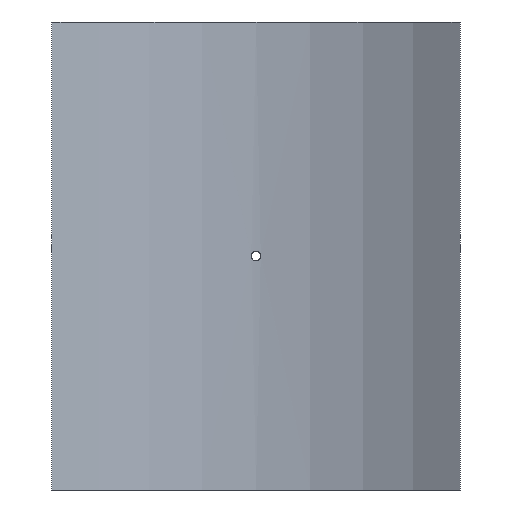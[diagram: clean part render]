
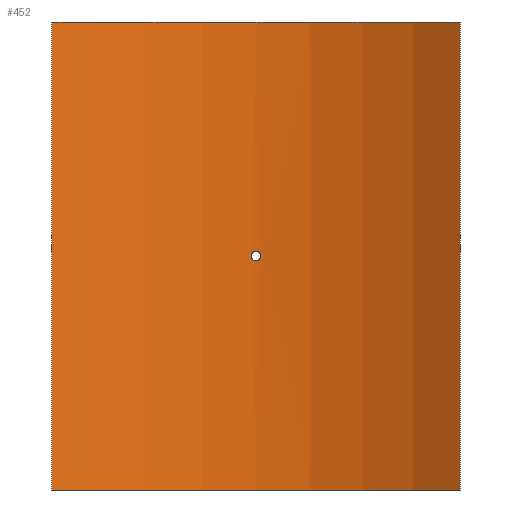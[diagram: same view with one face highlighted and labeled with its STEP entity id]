
A CAD part, front view. The second image highlights one B-rep face of the part: STEP entity #452.
In plain terms, the highlighted cylindrical face has radius 355 mm (diameter 710 mm), a partial arc.
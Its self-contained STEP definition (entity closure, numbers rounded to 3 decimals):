
#19=B_SPLINE_CURVE_WITH_KNOTS('',3,(#788,#789,#790,#791,#792,#793,#794,
#795,#796,#797,#798,#799,#800,#801,#802,#803,#804,#805,#806,#807,#808,#809,
#810,#811,#812,#813,#814,#815,#816,#817,#818,#819,#820,#821),
 .UNSPECIFIED.,.T.,.F.,(4,2,2,2,2,2,2,2,2,2,2,2,2,2,2,2,4),(0.,0.181,
0.362,0.542,0.723,0.904,
1.085,1.266,1.446,1.627,1.808,
1.989,2.17,2.351,2.531,2.712,
2.893),.UNSPECIFIED.);
#43=LINE('',#1065,#62);
#44=LINE('',#1068,#63);
#62=VECTOR('',#661,10.);
#63=VECTOR('',#664,10.);
#76=CYLINDRICAL_SURFACE('',#530,355.);
#88=FACE_BOUND('',#167,.T.);
#127=FACE_OUTER_BOUND('',#166,.T.);
#166=EDGE_LOOP('',(#405,#406,#407,#408));
#167=EDGE_LOOP('',(#409));
#201=CIRCLE('',#529,355.);
#202=CIRCLE('',#531,355.);
#219=VERTEX_POINT('',#786);
#242=VERTEX_POINT('',#1058);
#243=VERTEX_POINT('',#1060);
#244=VERTEX_POINT('',#1064);
#245=VERTEX_POINT('',#1066);
#267=EDGE_CURVE('',#219,#219,#19,.T.);
#299=EDGE_CURVE('',#242,#243,#201,.T.);
#301=EDGE_CURVE('',#244,#242,#43,.T.);
#302=EDGE_CURVE('',#245,#244,#202,.T.);
#303=EDGE_CURVE('',#245,#243,#44,.T.);
#405=ORIENTED_EDGE('',*,*,#301,.F.);
#406=ORIENTED_EDGE('',*,*,#302,.F.);
#407=ORIENTED_EDGE('',*,*,#303,.T.);
#408=ORIENTED_EDGE('',*,*,#299,.F.);
#409=ORIENTED_EDGE('',*,*,#267,.T.);
#452=ADVANCED_FACE('',(#127,#88),#76,.F.);
#529=AXIS2_PLACEMENT_3D('',#1061,#656,#657);
#530=AXIS2_PLACEMENT_3D('',#1063,#659,#660);
#531=AXIS2_PLACEMENT_3D('',#1067,#662,#663);
#656=DIRECTION('center_axis',(0.,0.,1.));
#657=DIRECTION('ref_axis',(0.577,0.816,0.));
#659=DIRECTION('center_axis',(0.,0.,1.));
#660=DIRECTION('ref_axis',(0.577,0.816,0.));
#661=DIRECTION('',(0.,0.,-1.));
#662=DIRECTION('center_axis',(0.,0.,-1.));
#663=DIRECTION('ref_axis',(0.577,0.816,0.));
#664=DIRECTION('',(0.,0.,-1.));
#786=CARTESIAN_POINT('',(4.8,354.968,0.));
#788=CARTESIAN_POINT('Ctrl Pts',(4.8,354.968,0.));
#789=CARTESIAN_POINT('Ctrl Pts',(4.8,354.968,-0.603));
#790=CARTESIAN_POINT('Ctrl Pts',(4.68,354.969,-1.246));
#791=CARTESIAN_POINT('Ctrl Pts',(4.19,354.975,-2.428));
#792=CARTESIAN_POINT('Ctrl Pts',(3.82,354.98,-2.968));
#793=CARTESIAN_POINT('Ctrl Pts',(2.968,354.988,-3.82));
#794=CARTESIAN_POINT('Ctrl Pts',(2.428,354.992,-4.19));
#795=CARTESIAN_POINT('Ctrl Pts',(1.246,354.998,-4.68));
#796=CARTESIAN_POINT('Ctrl Pts',(0.603,355.,-4.8));
#797=CARTESIAN_POINT('Ctrl Pts',(-0.603,355.,-4.8));
#798=CARTESIAN_POINT('Ctrl Pts',(-1.246,354.998,-4.68));
#799=CARTESIAN_POINT('Ctrl Pts',(-2.428,354.992,-4.19));
#800=CARTESIAN_POINT('Ctrl Pts',(-2.968,354.988,-3.82));
#801=CARTESIAN_POINT('Ctrl Pts',(-3.82,354.98,-2.968));
#802=CARTESIAN_POINT('Ctrl Pts',(-4.19,354.975,-2.428));
#803=CARTESIAN_POINT('Ctrl Pts',(-4.68,354.969,-1.246));
#804=CARTESIAN_POINT('Ctrl Pts',(-4.8,354.968,-0.603));
#805=CARTESIAN_POINT('Ctrl Pts',(-4.8,354.968,0.603));
#806=CARTESIAN_POINT('Ctrl Pts',(-4.68,354.969,1.246));
#807=CARTESIAN_POINT('Ctrl Pts',(-4.19,354.975,2.428));
#808=CARTESIAN_POINT('Ctrl Pts',(-3.82,354.98,2.968));
#809=CARTESIAN_POINT('Ctrl Pts',(-2.968,354.988,3.82));
#810=CARTESIAN_POINT('Ctrl Pts',(-2.428,354.992,4.19));
#811=CARTESIAN_POINT('Ctrl Pts',(-1.246,354.998,4.68));
#812=CARTESIAN_POINT('Ctrl Pts',(-0.603,355.,4.8));
#813=CARTESIAN_POINT('Ctrl Pts',(0.603,355.,4.8));
#814=CARTESIAN_POINT('Ctrl Pts',(1.246,354.998,4.68));
#815=CARTESIAN_POINT('Ctrl Pts',(2.428,354.992,4.19));
#816=CARTESIAN_POINT('Ctrl Pts',(2.968,354.988,3.82));
#817=CARTESIAN_POINT('Ctrl Pts',(3.82,354.98,2.968));
#818=CARTESIAN_POINT('Ctrl Pts',(4.19,354.975,2.428));
#819=CARTESIAN_POINT('Ctrl Pts',(4.68,354.969,1.246));
#820=CARTESIAN_POINT('Ctrl Pts',(4.8,354.968,0.603));
#821=CARTESIAN_POINT('Ctrl Pts',(4.8,354.968,0.));
#1058=CARTESIAN_POINT('',(205.,289.828,-235.));
#1060=CARTESIAN_POINT('',(-205.,289.828,-235.));
#1061=CARTESIAN_POINT('Origin',(0.,0.,
-235.));
#1063=CARTESIAN_POINT('Origin',(0.,0.,
0.));
#1064=CARTESIAN_POINT('',(205.,289.828,235.));
#1065=CARTESIAN_POINT('',(205.,289.828,0.));
#1066=CARTESIAN_POINT('',(-205.,289.828,235.));
#1067=CARTESIAN_POINT('Origin',(0.,0.,
235.));
#1068=CARTESIAN_POINT('',(-205.,289.828,0.));
